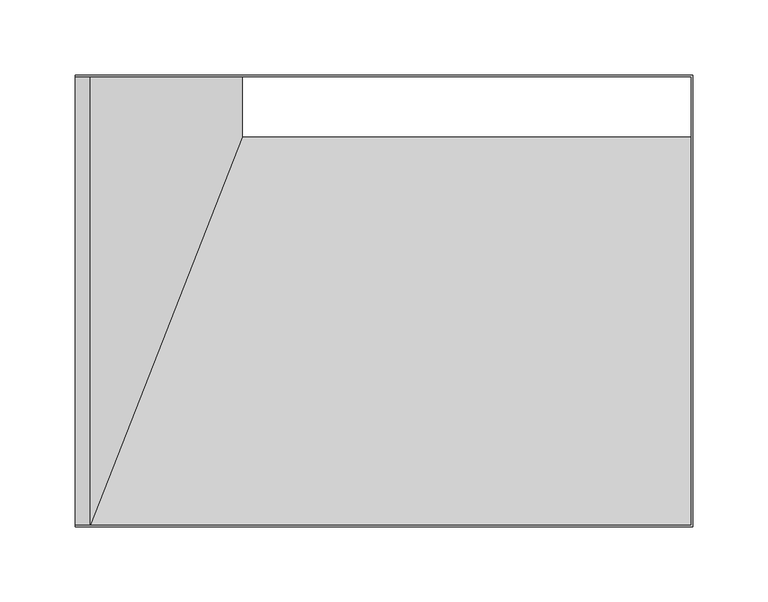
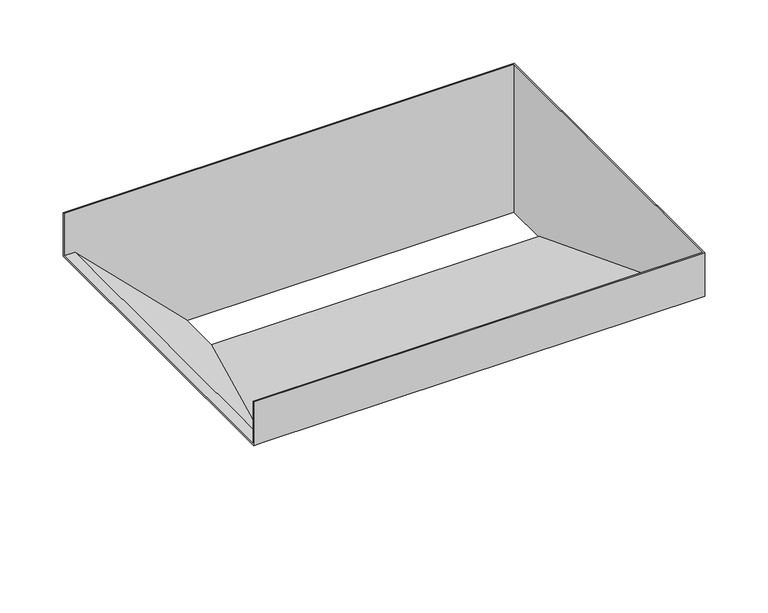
"""IFC4 building model written with IfcOpenShell, lengths in millimetres: cable carrier fitting geometry, BAKS_Vertical elbow right : KRPJ_H42."""

import ifcopenshell
import ifcopenshell.guid

model = None  # the IFC model being written
_history = None  # IfcOwnerHistory: only IFC2X3 demands one
_inside = {}  # id of a spatial element -> (the spatial element, [elements in it])
_under = {}  # id of a project, library or spatial element -> (it, [spatial elements below it])
_declared = {}  # id of a project -> (the project, [libraries it declares])
_typed = {}  # id of a type object -> (the type object, [elements of that type])
_made_of = {}  # id of a material, layer set ... -> (it, [elements and type objects made of it])


def new_model(schema):
    """Start an empty IFC model of exactly this schema.

    Asked for "IFC4X3", IfcOpenShell would pick the latest addendum, in which some entities
    have other attributes; the version numbers below select the first issue.
    IFC2X3 requires an IfcOwnerHistory on every rooted entity: one is made here for all.
    """
    global model, _history
    if schema == "IFC4X3":
        model = ifcopenshell.file(schema_version=(4, 3, 0, 0))
    else:
        model = ifcopenshell.file(schema=schema)
    _inside.clear()
    _under.clear()
    _declared.clear()
    _typed.clear()
    _made_of.clear()
    _history = None
    if model.schema == "IFC2X3":
        org = make("IfcOrganization", Name="unknown")
        user = make(
            "IfcPersonAndOrganization",
            ThePerson=make("IfcPerson", FamilyName="unknown"),
            TheOrganization=org,
        )
        app = make(
            "IfcApplication",
            ApplicationDeveloper=org,
            Version="unknown",
            ApplicationFullName="unknown",
            ApplicationIdentifier="unknown",
        )
        _history = make(
            "IfcOwnerHistory",
            OwningUser=user,
            OwningApplication=app,
            ChangeAction="ADDED",
            CreationDate=0,
        )
    return model


def make(cls, **values):
    """One entity of the class cls with the attributes given. An attribute that is None is left unset."""
    return model.create_entity(
        cls, **{name: value for name, value in values.items() if value is not None}
    )


def rooted(cls, **values):
    """An entity with a GlobalId (a new one), such as an element, a storey or a relation."""
    return make(cls, GlobalId=ifcopenshell.guid.new(), OwnerHistory=_history, **values)


def si_unit(unit_type, name, prefix=None):
    """IfcSIUnit, for example si_unit("LENGTHUNIT", "METRE", prefix="MILLI")."""
    return make("IfcSIUnit", UnitType=unit_type, Prefix=prefix, Name=name)


def assignment(units):
    """IfcUnitAssignment: the units of a project."""
    return None if units is None else make("IfcUnitAssignment", Units=units)


def point(xyz):
    """IfcCartesianPoint."""
    return None if xyz is None else make("IfcCartesianPoint", Coordinates=xyz)


def direction(xyz):
    """IfcDirection."""
    return None if xyz is None else make("IfcDirection", DirectionRatios=xyz)


def frame(location, z_axis=None, x_axis=None):
    """IfcAxis2Placement3D, a coordinate frame: its origin and axes. An axis left out is left unset."""
    return make(
        "IfcAxis2Placement3D",
        Location=point(location),
        Axis=direction(z_axis),
        RefDirection=direction(x_axis),
    )


def origin():
    """The frame at (0, 0, 0) with its axes left unset."""
    return frame((0.0, 0.0, 0.0))


def place(relative_to, where):
    """IfcLocalPlacement: puts the frame where relative to a parent placement (None: the world)."""
    return make(
        "IfcLocalPlacement", PlacementRelTo=relative_to, RelativePlacement=where
    )


def context(
    kind, dimensions, precision=None, world=None, true_north=None, identifier=None
):
    """IfcGeometricRepresentationContext, for example the 3D "Model" context."""
    return make(
        "IfcGeometricRepresentationContext",
        ContextIdentifier=identifier,
        ContextType=kind,
        CoordinateSpaceDimension=dimensions,
        Precision=precision,
        WorldCoordinateSystem=world,
        TrueNorth=true_north,
    )


def project(units=None, contexts=None):
    """IfcProject with its units and contexts."""
    return rooted(
        "IfcProject",
        Name="project",
        RepresentationContexts=contexts,
        UnitsInContext=assignment(units),
    )


def spatial(cls, under=None, at=None, **own):
    """A site, building, storey or space (cls), placed at a placement, below another one or the project."""
    s = rooted(cls, ObjectPlacement=at, **own)
    if under is not None:
        _under.setdefault(under.id(), (under, []))[1].append(s)
    return s


def faces_of(points, faces, orient=None, outer=None):
    """IfcFace entities. A face is a list of loops; a loop is a list of indices into points, from 0.

    orient and outer hold one flag for each loop. By default every Orientation is true, the
    first loop of a face is its IfcFaceOuterBound and the others are IfcFaceBound.
    """
    made = []
    for i, loops in enumerate(faces):
        bounds = []
        for j, loop in enumerate(loops):
            is_outer = j == 0 if outer is None else outer[i][j]
            bounds.append(
                make(
                    "IfcFaceOuterBound" if is_outer else "IfcFaceBound",
                    Bound=make("IfcPolyLoop", Polygon=[points[k] for k in loop]),
                    Orientation=True if orient is None else orient[i][j],
                )
            )
        made.append(make("IfcFace", Bounds=bounds))
    return made


def faceted_brep(points, faces, orient=None, outer=None, voids=None):
    """IfcFacetedBrep: a solid bounded by flat faces; with voids (closed shells), ...WithVoids."""
    shared = [point(p) for p in points]
    hull = make("IfcClosedShell", CfsFaces=faces_of(shared, faces, orient, outer))
    if voids is None:
        return make("IfcFacetedBrep", Outer=hull)
    return make(
        "IfcFacetedBrepWithVoids",
        Outer=hull,
        Voids=[
            make(cls, CfsFaces=faces_of(shared, fs, o, b)) for cls, fs, o, b in voids
        ],
    )


def shape(context_of_items, identifier, shape_type, items):
    """IfcShapeRepresentation: the items that make up one representation, for example the "Body"."""
    return make(
        "IfcShapeRepresentation",
        ContextOfItems=context_of_items,
        RepresentationIdentifier=identifier,
        RepresentationType=shape_type,
        Items=items,
    )


def source(mapping_origin, context_of_items, identifier, shape_type, items):
    """IfcRepresentationMap: a shape defined once, which mapped items show again and again."""
    return make(
        "IfcRepresentationMap",
        MappingOrigin=mapping_origin,
        MappedRepresentation=shape(context_of_items, identifier, shape_type, items),
    )


def transform(
    local_origin,
    x_axis=None,
    y_axis=None,
    z_axis=None,
    scale=None,
    scale2=None,
    scale3=None,
    uniform=True,
):
    """IfcCartesianTransformationOperator3D, or its non-uniform kind. x_axis, y_axis, z_axis: its Axis1, 2, 3."""
    if uniform:
        return make(
            "IfcCartesianTransformationOperator3D",
            Axis1=direction(x_axis),
            Axis2=direction(y_axis),
            LocalOrigin=point(local_origin),
            Scale=scale,
            Axis3=direction(z_axis),
        )
    return make(
        "IfcCartesianTransformationOperator3DnonUniform",
        Axis1=direction(x_axis),
        Axis2=direction(y_axis),
        LocalOrigin=point(local_origin),
        Scale=scale,
        Axis3=direction(z_axis),
        Scale2=scale2,
        Scale3=scale3,
    )


def mapped(mapping_source, mapping_target):
    """IfcMappedItem: shows the shape of a source again, moved by a transform."""
    return make(
        "IfcMappedItem", MappingSource=mapping_source, MappingTarget=mapping_target
    )


def made_of(thing, what):
    """Note that an element or type object is made of a material, layer set ...; save() writes the relation."""
    if what is not None:
        _made_of.setdefault(what.id(), (what, []))[1].append(thing)
    return thing


def element(
    cls,
    number,
    at=None,
    inside=None,
    cuts=None,
    type_object=None,
    material=None,
    context=None,
    identifier="Body",
    shape_type=None,
    held_by="IfcProductDefinitionShape",
    body=None,
    shapes=None,
    **own,
):
    """One element of the class cls, such as IfcWall. Its Tag is "e" and its number.

    at: its placement. inside: the storey or other place that contains it. cuts: it is an
    opening in that element (IfcRelVoidsElement). A single representation is given by context,
    identifier, shape_type and body (its items); several are given by shapes. held_by: the class
    of the entity that holds the representations. save() writes the other relations.
    """
    e = rooted(cls, Tag="e%d" % number, ObjectPlacement=at, **own)
    if body is not None:
        shapes = [shape(context, identifier, shape_type, body)]
    if shapes is not None:
        e.Representation = make(held_by, Representations=shapes)
    if inside is not None:
        _inside.setdefault(inside.id(), (inside, []))[1].append(e)
    if cuts is not None:
        rooted(
            "IfcRelVoidsElement", RelatingBuildingElement=cuts, RelatedOpeningElement=e
        )
    if type_object is not None:
        _typed.setdefault(type_object.id(), (type_object, []))[1].append(e)
    return made_of(e, material)


def aggregate(whole, parts):
    """IfcRelAggregates: a whole, such as a stair, and the parts it consists of."""
    return rooted("IfcRelAggregates", RelatingObject=whole, RelatedObjects=parts)


def save(model, path):
    """Write the relations noted so far, then the file.

    IfcRelAggregates (storeys below a building ...), IfcRelContainedInSpatialStructure (elements
    in a storey), IfcRelDefinesByType, IfcRelAssociatesMaterial and IfcRelDeclares: one each for
    every whole, place, type object, material and project.
    """
    for whole, parts in _under.values():
        aggregate(whole, parts)
    for where, things in _inside.values():
        rooted(
            "IfcRelContainedInSpatialStructure",
            RelatedElements=things,
            RelatingStructure=where,
        )
    for kind, things in _typed.values():
        rooted("IfcRelDefinesByType", RelatedObjects=things, RelatingType=kind)
    for what, things in _made_of.values():
        rooted("IfcRelAssociatesMaterial", RelatedObjects=things, RelatingMaterial=what)
    for by, libraries in _declared.values():
        rooted("IfcRelDeclares", RelatingContext=by, RelatedDefinitions=libraries)
    model.write(path)


def cable_carrier_fitting_b8cc1d00(model_context):
    return source(origin(), model_context, "Body", "Brep", [
        faceted_brep([(410.0, 150.0, -121.0), (410.0, 108.0, -121.0), (110.0, 108.0, -121.0), (110.0, 150.0, -121.0), (409.0, 149.0, -121.0), (111.0, 149.0, -121.0), (111.0, 109.0, -121.0), (409.0, 109.0, -121.0), (10.0, -150.0, -21.0), (10.0, 150.0, -21.0), (410.0, -150.0, -21.0), (111.0, 149.0, -120.0), (111.0, 109.0, -120.0), (409.0, 109.0, -120.0), (10.0, 149.0, -20.0), (10.0, -149.0, -20.0), (409.0, -149.0, -20.0), (410.0, 150.0, 21.0), (0.0, 150.0, 21.0), (0.0, 149.0, 21.0), (409.0, 149.0, 21.0), (409.0, -149.0, 21.0), (0.0, -149.0, 21.0), (0.0, -150.0, 21.0), (410.0, -150.0, 21.0), (0.0, -150.0, -21.0), (0.0, 150.0, -21.0), (0.0, -149.0, -20.0), (0.0, 149.0, -20.0)], [[[0, 1, 2, 3], [4, 5, 6, 7]], [[3, 2, 8, 9]], [[2, 1, 10, 8]], [[5, 11, 12, 6]], [[6, 12, 13, 7]], [[11, 14, 15, 12]], [[12, 15, 16, 13]], [[17, 18, 19, 20, 21, 22, 23, 24]], [[25, 26, 9, 8]], [[18, 17, 0, 3, 9, 26]], [[26, 25, 23, 22, 27, 28, 19, 18]], [[24, 23, 25, 8, 10]], [[17, 24, 10, 1, 0]], [[28, 27, 15, 14]], [[20, 19, 28, 14, 11, 5, 4]], [[21, 16, 15, 27, 22]], [[20, 4, 7, 13, 16, 21]]]),
    ])


if __name__ == "__main__":
    model = new_model("IFC4")
    model_context = context("Model", 3, world=origin())
    ifc_project = project(units=[si_unit("LENGTHUNIT", "METRE", prefix="MILLI")], contexts=[model_context])
    site = spatial("IfcSite", under=ifc_project)
    building = spatial("IfcBuilding", under=site)
    placement = place(None, origin())
    cable_carrier_fitting_shape = cable_carrier_fitting_b8cc1d00(model_context)
    element("IfcCableCarrierFitting", 1, ObjectType="BAKS_Vertical elbow right : KRPJ_H42", at=placement, inside=building, context=model_context, shape_type="MappedRepresentation", body=[
        mapped(cable_carrier_fitting_shape, transform((0.0, 0.0, 0.0), x_axis=(1.0, 0.0, 0.0), y_axis=(0.0, 1.0, 0.0), z_axis=(0.0, 0.0, 1.0))),
    ])
    save(model, "model.ifc")
